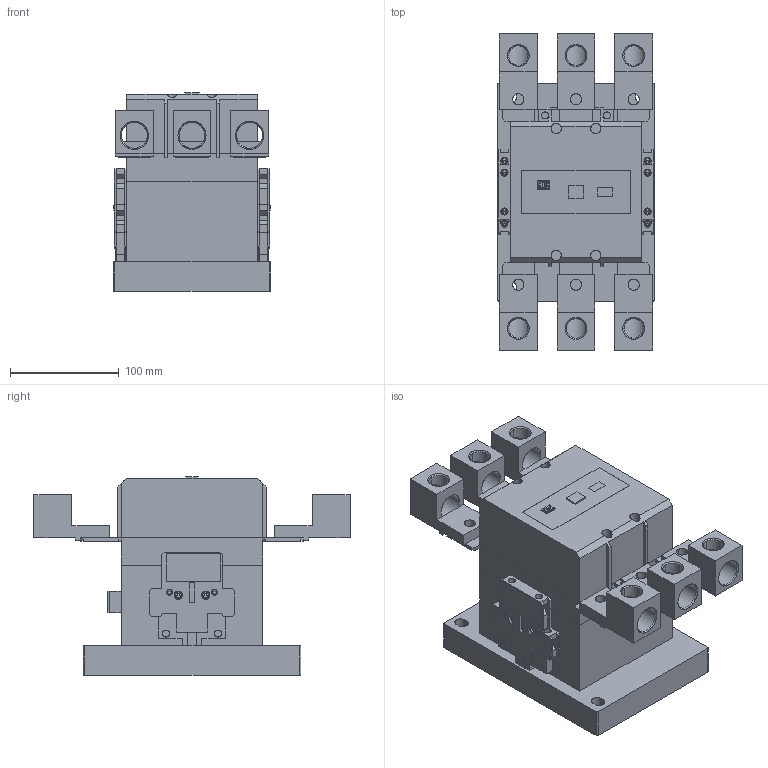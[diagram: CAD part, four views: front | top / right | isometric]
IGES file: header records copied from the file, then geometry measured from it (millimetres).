
Start section: SolidWorks IGES file using analytic representation for surfaces
Global section: file name: Q:\GROUPS\BR_SC_JGS_WA_TECNICO\ENG\Usuarios\Rodrigob\conversão\contatores\Produto\CWM250+LW1-S600\CWM250+LW1-S600 .IGS; native system: SolidWorks 2012; preprocessor: SolidWorks 2012; author: rodrigob; date: 140529.071454; units: millimetre
Bounding box: 145.1 x 290.7 x 182.45 mm (x, y, z)
Surface area: 361406.8 mm2 (no closed solid volume)
Topology: 0 solids, 0 shells, 1544 faces, 14938 edges, 14938 vertices
Faces by surface type: bspline 1082, revolution 462
